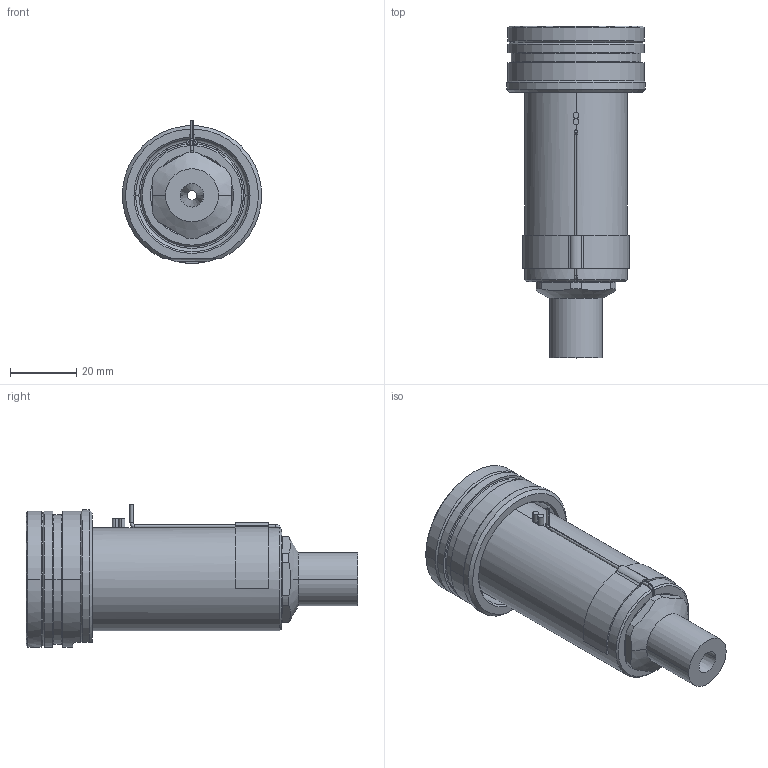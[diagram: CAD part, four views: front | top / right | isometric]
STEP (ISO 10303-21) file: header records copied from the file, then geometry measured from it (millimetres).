
FILE_DESCRIPTION((''),'2;1');
FILE_NAME('EO12_SG_ESG_070_SW','2024-02-19T12:30:02',('sundharh'),(''),'CREO PARAMETRIC BY PTC INC, 2023154','CREO PARAMETRIC BY PTC INC, 2023154','');
FILE_SCHEMA(('CONFIG_CONTROL_DESIGN'));
Length unit declared in the file: millimetre
Products named in the file (1): EO12_SG_ESG_070_SW
Bounding box: 41.85 x 100 x 43 mm (x, y, z)
Volume: 63606.3 mm3; surface area: 19415.8 mm2
Topology: 2 solids, 3 shells, 177 faces, 448 edges, 273 vertices
Faces by surface type: cylinder 65, plane 46, cone 33, torus 27, sphere 3, bspline 3
Entity records: 5996 total; most frequent: CARTESIAN_POINT 1644, DIRECTION 956, ORIENTED_EDGE 888, EDGE_CURVE 444, AXIS2_PLACEMENT_3D 399, VERTEX_POINT 273, CIRCLE 225, EDGE_LOOP 193
